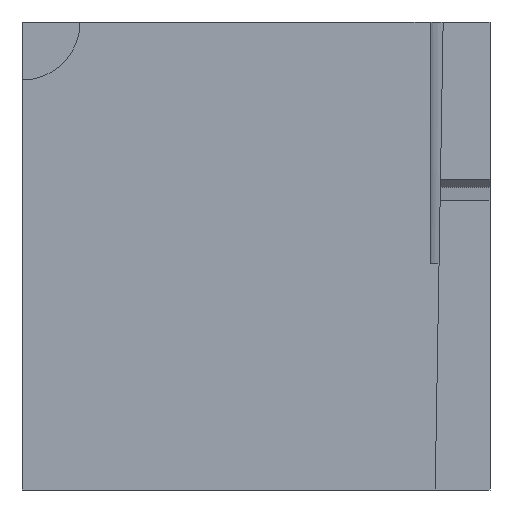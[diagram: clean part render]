
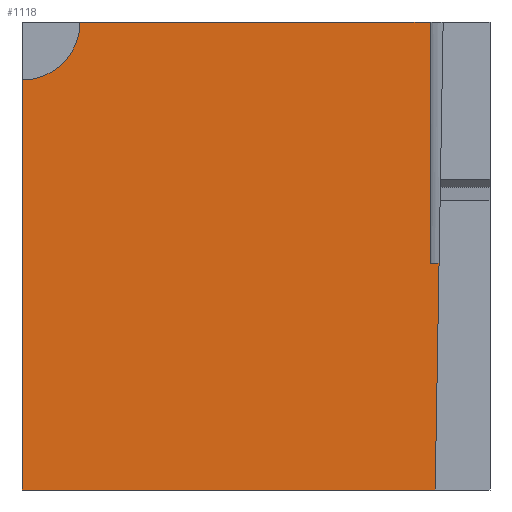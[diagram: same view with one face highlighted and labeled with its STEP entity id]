
A CAD part, front view. The second image highlights one B-rep face of the part: STEP entity #1118.
In plain terms, the highlighted planar face has unit normal (0, -1, 0).
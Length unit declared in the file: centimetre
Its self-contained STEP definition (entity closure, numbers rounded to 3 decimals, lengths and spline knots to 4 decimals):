
#60 = CARTESIAN_POINT ( 'NONE',  ( 882.8533, 0., 0. ) ) ;
#75 = DIRECTION ( 'NONE',  ( 0., 0., -1. ) ) ;
#91 = EDGE_LOOP ( 'NONE', ( #845, #349, #217, #907, #991, #167, #200 ) ) ;
#112 = DIRECTION ( 'NONE',  ( -0.017, 0., -1. ) ) ;
#129 = CIRCLE ( 'NONE', #712, 124.1119 ) ;
#133 = EDGE_CURVE ( 'NONE', #364, #759, #324, .T. ) ;
#159 = DIRECTION ( 'NONE',  ( 1., 0., 0. ) ) ;
#162 = CARTESIAN_POINT ( 'NONE',  ( 871.8843, 0., 484.8769 ) ) ;
#167 = ORIENTED_EDGE ( 'NONE', *, *, #237, .F. ) ;
#200 = ORIENTED_EDGE ( 'NONE', *, *, #439, .T. ) ;
#217 = ORIENTED_EDGE ( 'NONE', *, *, #718, .F. ) ;
#237 = EDGE_CURVE ( 'NONE', #640, #1087, #129, .T. ) ;
#238 = CARTESIAN_POINT ( 'NONE',  ( 0., 0., 0. ) ) ;
#245 = DIRECTION ( 'NONE',  ( 0., -1., 0. ) ) ;
#263 = CARTESIAN_POINT ( 'NONE',  ( 0., 0., 1000. ) ) ;
#309 = CARTESIAN_POINT ( 'NONE',  ( 0., 0., 1000. ) ) ;
#310 = VECTOR ( 'NONE', #568, 100. ) ;
#317 = CARTESIAN_POINT ( 'NONE',  ( 0., 0., 0. ) ) ;
#324 = LINE ( 'NONE', #317, #681 ) ;
#349 = ORIENTED_EDGE ( 'NONE', *, *, #953, .F. ) ;
#364 = VERTEX_POINT ( 'NONE', #238 ) ;
#367 = VERTEX_POINT ( 'NONE', #162 ) ;
#439 = EDGE_CURVE ( 'NONE', #640, #364, #513, .T. ) ;
#482 = CARTESIAN_POINT ( 'NONE',  ( 0., 0., 875.8881 ) ) ;
#492 = DIRECTION ( 'NONE',  ( 1., 0., 0. ) ) ;
#513 = LINE ( 'NONE', #263, #638 ) ;
#558 = DIRECTION ( 'NONE',  ( 0., 0., 1. ) ) ;
#567 = LINE ( 'NONE', #923, #1070 ) ;
#568 = DIRECTION ( 'NONE',  ( 1., 0., 0. ) ) ;
#574 = CARTESIAN_POINT ( 'NONE',  ( 0., 0., 1000. ) ) ;
#593 = CARTESIAN_POINT ( 'NONE',  ( 871.8843, 0., 1000. ) ) ;
#612 = CARTESIAN_POINT ( 'NONE',  ( 899.8636, 0., 1000. ) ) ;
#633 = PLANE ( 'NONE',  #1005 ) ;
#638 = VECTOR ( 'NONE', #1048, 100. ) ;
#640 = VERTEX_POINT ( 'NONE', #482 ) ;
#643 = CARTESIAN_POINT ( 'NONE',  ( 124.1119, 0., 1000. ) ) ;
#672 = VECTOR ( 'NONE', #159, 100. ) ;
#681 = VECTOR ( 'NONE', #492, 100. ) ;
#684 = CARTESIAN_POINT ( 'NONE',  ( 0., 0., 484.8769 ) ) ;
#700 = EDGE_CURVE ( 'NONE', #367, #885, #567, .T. ) ;
#712 = AXIS2_PLACEMENT_3D ( 'NONE', #574, #245, #75 ) ;
#718 = EDGE_CURVE ( 'NONE', #367, #965, #767, .T. ) ;
#759 = VERTEX_POINT ( 'NONE', #60 ) ;
#767 = LINE ( 'NONE', #684, #672 ) ;
#802 = VECTOR ( 'NONE', #112, 100. ) ;
#808 = DIRECTION ( 'NONE',  ( 0., 0., 1. ) ) ;
#822 = DIRECTION ( 'NONE',  ( 0., 1., 0. ) ) ;
#845 = ORIENTED_EDGE ( 'NONE', *, *, #133, .T. ) ;
#878 = CARTESIAN_POINT ( 'NONE',  ( 891.1012, 0., 484.8769 ) ) ;
#885 = VERTEX_POINT ( 'NONE', #593 ) ;
#907 = ORIENTED_EDGE ( 'NONE', *, *, #700, .T. ) ;
#918 = FACE_OUTER_BOUND ( 'NONE', #91, .T. ) ;
#923 = CARTESIAN_POINT ( 'NONE',  ( 871.8843, 0., 484.8769 ) ) ;
#924 = CARTESIAN_POINT ( 'NONE',  ( 0., 0., 1000. ) ) ;
#953 = EDGE_CURVE ( 'NONE', #965, #759, #1124, .T. ) ;
#965 = VERTEX_POINT ( 'NONE', #878 ) ;
#991 = ORIENTED_EDGE ( 'NONE', *, *, #1093, .F. ) ;
#1005 = AXIS2_PLACEMENT_3D ( 'NONE', #924, #822, #808 ) ;
#1048 = DIRECTION ( 'NONE',  ( 0., 0., -1. ) ) ;
#1070 = VECTOR ( 'NONE', #558, 100. ) ;
#1085 = LINE ( 'NONE', #309, #310 ) ;
#1087 = VERTEX_POINT ( 'NONE', #643 ) ;
#1093 = EDGE_CURVE ( 'NONE', #1087, #885, #1085, .T. ) ;
#1118 = ADVANCED_FACE ( 'NONE', ( #918 ), #633, .F. ) ;
#1124 = LINE ( 'NONE', #612, #802 ) ;
